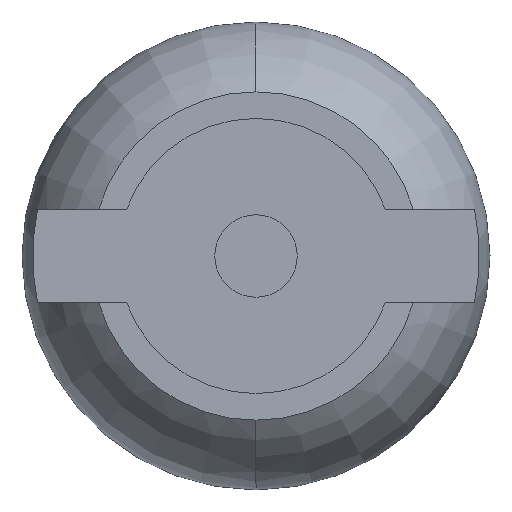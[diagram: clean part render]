
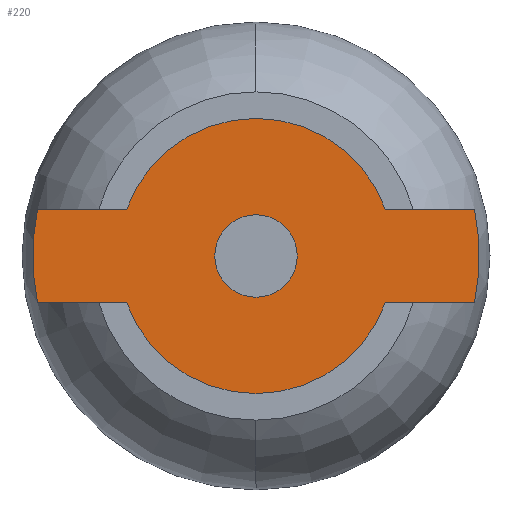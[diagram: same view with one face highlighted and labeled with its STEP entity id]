
A CAD part, left-side view. The second image highlights one B-rep face of the part: STEP entity #220.
In plain terms, the highlighted planar face has unit normal (-1, 0, 0) as drawn and (0, 1, 0) by its records, which use the part's own axes.
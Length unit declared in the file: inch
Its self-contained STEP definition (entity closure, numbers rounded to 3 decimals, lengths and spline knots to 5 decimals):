
#10 = CIRCLE ( 'NONE', #553, 0.197 ) ;
#31 = EDGE_LOOP ( 'NONE', ( #1239, #534 ) ) ;
#33 = AXIS2_PLACEMENT_3D ( 'NONE', #295, #287, #274 ) ;
#57 = VERTEX_POINT ( 'NONE', #978 ) ;
#72 = DIRECTION ( 'NONE',  ( 0., 0., 1. ) ) ;
#100 = AXIS2_PLACEMENT_3D ( 'NONE', #556, #550, #537 ) ;
#135 = CARTESIAN_POINT ( 'NONE',  ( 0., 0.03, 0. ) ) ;
#143 = EDGE_CURVE ( 'NONE', #586, #308, #721, .T. ) ;
#158 = DIRECTION ( 'NONE',  ( 0., 1., 0. ) ) ;
#180 = CARTESIAN_POINT ( 'NONE',  ( -0.18526, 0.03, 0.067 ) ) ;
#220 = ADVANCED_FACE ( 'NONE', ( #603, #605 ), #1196, .T. ) ;
#240 = DIRECTION ( 'NONE',  ( 0., 0., 1. ) ) ;
#268 = VERTEX_POINT ( 'NONE', #873 ) ;
#274 = DIRECTION ( 'NONE',  ( 0., 0., 1. ) ) ;
#276 = LINE ( 'NONE', #1183, #294 ) ;
#287 = DIRECTION ( 'NONE',  ( 0., 1., 0. ) ) ;
#294 = VECTOR ( 'NONE', #1091, 39.37008 ) ;
#295 = CARTESIAN_POINT ( 'NONE',  ( 0., 0.03, 0. ) ) ;
#308 = VERTEX_POINT ( 'NONE', #648 ) ;
#327 = EDGE_CURVE ( 'NONE', #308, #268, #405, .T. ) ;
#351 = DIRECTION ( 'NONE',  ( 0., 1., 0. ) ) ;
#359 = AXIS2_PLACEMENT_3D ( 'NONE', #1206, #1199, #1178 ) ;
#366 = VECTOR ( 'NONE', #954, 39.37008 ) ;
#368 = CARTESIAN_POINT ( 'NONE',  ( 0., 0.03, 0. ) ) ;
#370 = LINE ( 'NONE', #794, #366 ) ;
#373 = VECTOR ( 'NONE', #391, 39.37008 ) ;
#391 = DIRECTION ( 'NONE',  ( -1., 0., 0. ) ) ;
#403 = EDGE_CURVE ( 'NONE', #57, #841, #276, .T. ) ;
#405 = LINE ( 'NONE', #472, #373 ) ;
#407 = ORIENTED_EDGE ( 'NONE', *, *, #1319, .T. ) ;
#447 = DIRECTION ( 'NONE',  ( 0., 0., 1. ) ) ;
#472 = CARTESIAN_POINT ( 'NONE',  ( 0.18526, 0.03, -0.067 ) ) ;
#474 = CIRCLE ( 'NONE', #487, 0.197 ) ;
#487 = AXIS2_PLACEMENT_3D ( 'NONE', #939, #933, #923 ) ;
#502 = AXIS2_PLACEMENT_3D ( 'NONE', #368, #351, #240 ) ;
#534 = ORIENTED_EDGE ( 'NONE', *, *, #1052, .F. ) ;
#537 = DIRECTION ( 'NONE',  ( 0., 0., 1. ) ) ;
#550 = DIRECTION ( 'NONE',  ( 0., 1., 0. ) ) ;
#552 = EDGE_CURVE ( 'NONE', #268, #57, #10, .T. ) ;
#553 = AXIS2_PLACEMENT_3D ( 'NONE', #664, #1191, #447 ) ;
#556 = CARTESIAN_POINT ( 'NONE',  ( 0., 0.03, 0. ) ) ;
#586 = VERTEX_POINT ( 'NONE', #1370 ) ;
#603 = FACE_BOUND ( 'NONE', #31, .T. ) ;
#605 = FACE_OUTER_BOUND ( 'NONE', #1061, .T. ) ;
#648 = CARTESIAN_POINT ( 'NONE',  ( 0.31291, 0.03, -0.067 ) ) ;
#656 = VERTEX_POINT ( 'NONE', #844 ) ;
#664 = CARTESIAN_POINT ( 'NONE',  ( 0., 0.03, 0. ) ) ;
#669 = VECTOR ( 'NONE', #909, 39.37008 ) ;
#671 = LINE ( 'NONE', #803, #669 ) ;
#721 = CIRCLE ( 'NONE', #1397, 0.32 ) ;
#726 = EDGE_CURVE ( 'NONE', #1421, #1308, #1285, .T. ) ;
#735 = CARTESIAN_POINT ( 'NONE',  ( 0., 0.03, -0.059 ) ) ;
#794 = CARTESIAN_POINT ( 'NONE',  ( 0.31291, 0.03, 0.067 ) ) ;
#803 = CARTESIAN_POINT ( 'NONE',  ( -0.18526, 0.03, 0.067 ) ) ;
#807 = EDGE_CURVE ( 'NONE', #841, #871, #1145, .T. ) ;
#826 = CIRCLE ( 'NONE', #33, 0.059 ) ;
#841 = VERTEX_POINT ( 'NONE', #974 ) ;
#844 = CARTESIAN_POINT ( 'NONE',  ( 0.18526, 0.03, 0.067 ) ) ;
#871 = VERTEX_POINT ( 'NONE', #941 ) ;
#873 = CARTESIAN_POINT ( 'NONE',  ( 0.18526, 0.03, -0.067 ) ) ;
#909 = DIRECTION ( 'NONE',  ( 1., 0., 0. ) ) ;
#918 = ORIENTED_EDGE ( 'NONE', *, *, #552, .T. ) ;
#923 = DIRECTION ( 'NONE',  ( 0., 0., 1. ) ) ;
#931 = CIRCLE ( 'NONE', #100, 0.059 ) ;
#933 = DIRECTION ( 'NONE',  ( 0., 1., 0. ) ) ;
#939 = CARTESIAN_POINT ( 'NONE',  ( 0., 0.03, 0. ) ) ;
#941 = CARTESIAN_POINT ( 'NONE',  ( -0.31291, 0.03, 0.067 ) ) ;
#954 = DIRECTION ( 'NONE',  ( 1., 0., 0. ) ) ;
#974 = CARTESIAN_POINT ( 'NONE',  ( -0.31291, 0.03, -0.067 ) ) ;
#978 = CARTESIAN_POINT ( 'NONE',  ( -0.18526, 0.03, -0.067 ) ) ;
#981 = ORIENTED_EDGE ( 'NONE', *, *, #726, .T. ) ;
#1007 = EDGE_CURVE ( 'NONE', #1257, #1192, #931, .T. ) ;
#1040 = CARTESIAN_POINT ( 'NONE',  ( 0., 0.03, 0.197 ) ) ;
#1052 = EDGE_CURVE ( 'NONE', #1192, #1257, #826, .T. ) ;
#1061 = EDGE_LOOP ( 'NONE', ( #1386, #1259, #918, #1220, #1292, #1162, #981, #1217, #407 ) ) ;
#1063 = CARTESIAN_POINT ( 'NONE',  ( 0., 0.03, 0.059 ) ) ;
#1091 = DIRECTION ( 'NONE',  ( -1., 0., 0. ) ) ;
#1145 = CIRCLE ( 'NONE', #359, 0.32 ) ;
#1150 = EDGE_CURVE ( 'NONE', #871, #1421, #671, .T. ) ;
#1162 = ORIENTED_EDGE ( 'NONE', *, *, #1150, .T. ) ;
#1171 = DIRECTION ( 'NONE',  ( 0., 0., 1. ) ) ;
#1178 = DIRECTION ( 'NONE',  ( 0., 0., 1. ) ) ;
#1180 = DIRECTION ( 'NONE',  ( 0., 1., 0. ) ) ;
#1183 = CARTESIAN_POINT ( 'NONE',  ( -0.31291, 0.03, -0.067 ) ) ;
#1191 = DIRECTION ( 'NONE',  ( 0., 1., 0. ) ) ;
#1192 = VERTEX_POINT ( 'NONE', #735 ) ;
#1196 = PLANE ( 'NONE',  #1211 ) ;
#1199 = DIRECTION ( 'NONE',  ( 0., 1., 0. ) ) ;
#1206 = CARTESIAN_POINT ( 'NONE',  ( 0., 0.03, 0. ) ) ;
#1211 = AXIS2_PLACEMENT_3D ( 'NONE', #1262, #1180, #1171 ) ;
#1217 = ORIENTED_EDGE ( 'NONE', *, *, #1279, .T. ) ;
#1220 = ORIENTED_EDGE ( 'NONE', *, *, #403, .T. ) ;
#1239 = ORIENTED_EDGE ( 'NONE', *, *, #1007, .F. ) ;
#1257 = VERTEX_POINT ( 'NONE', #1063 ) ;
#1259 = ORIENTED_EDGE ( 'NONE', *, *, #327, .T. ) ;
#1262 = CARTESIAN_POINT ( 'NONE',  ( 0., 0.03, 0. ) ) ;
#1279 = EDGE_CURVE ( 'NONE', #1308, #656, #474, .T. ) ;
#1285 = CIRCLE ( 'NONE', #502, 0.197 ) ;
#1292 = ORIENTED_EDGE ( 'NONE', *, *, #807, .T. ) ;
#1308 = VERTEX_POINT ( 'NONE', #1040 ) ;
#1319 = EDGE_CURVE ( 'NONE', #656, #586, #370, .T. ) ;
#1370 = CARTESIAN_POINT ( 'NONE',  ( 0.31291, 0.03, 0.067 ) ) ;
#1386 = ORIENTED_EDGE ( 'NONE', *, *, #143, .T. ) ;
#1397 = AXIS2_PLACEMENT_3D ( 'NONE', #135, #158, #72 ) ;
#1421 = VERTEX_POINT ( 'NONE', #180 ) ;
